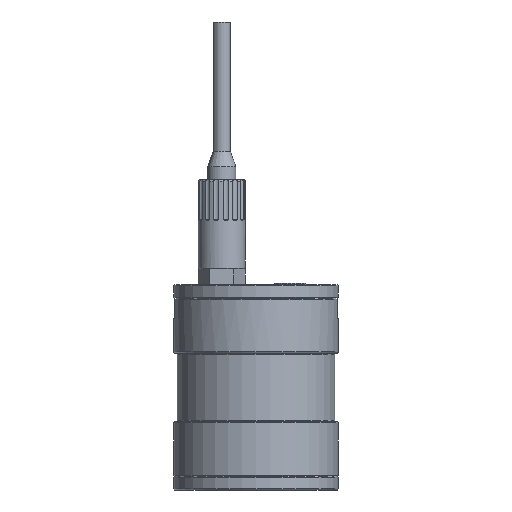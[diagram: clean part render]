
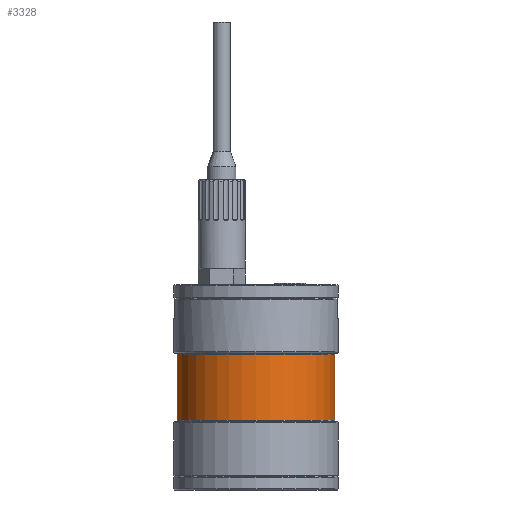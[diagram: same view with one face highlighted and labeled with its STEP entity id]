
A CAD part, front view. The second image highlights one B-rep face of the part: STEP entity #3328.
In plain terms, the highlighted cylindrical face has radius 36.513 mm (diameter 73.025 mm), a partial arc.
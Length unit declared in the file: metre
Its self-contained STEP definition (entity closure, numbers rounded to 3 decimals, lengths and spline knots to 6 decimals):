
#1034 = EDGE_LOOP ( 'NONE', ( #10132, #9157, #12105, #18317 ) ) ;
#1167 = VERTEX_POINT ( 'NONE', #9780 ) ;
#1994 = DIRECTION ( 'NONE',  ( 1., 0., 0. ) ) ;
#3328 = ADVANCED_FACE ( 'NONE', ( #11793 ), #17116, .T. ) ;
#3989 = DIRECTION ( 'NONE',  ( 0., 0., -1. ) ) ;
#4152 = CARTESIAN_POINT ( 'NONE',  ( -0.036513, 0., 0.062865 ) ) ;
#5798 = CARTESIAN_POINT ( 'NONE',  ( -0.036513, 0., 0.032385 ) ) ;
#6716 = CARTESIAN_POINT ( 'NONE',  ( 0., 0., 0. ) ) ;
#7435 = VECTOR ( 'NONE', #8868, 1. ) ;
#7659 = EDGE_CURVE ( 'NONE', #28382, #20461, #13151, .T. ) ;
#8064 = CARTESIAN_POINT ( 'NONE',  ( -0.036513, 0., 0. ) ) ;
#8868 = DIRECTION ( 'NONE',  ( 0., 0., -1. ) ) ;
#9157 = ORIENTED_EDGE ( 'NONE', *, *, #32348, .T. ) ;
#9486 = DIRECTION ( 'NONE',  ( 0., 0., -1. ) ) ;
#9780 = CARTESIAN_POINT ( 'NONE',  ( 0.036513, 0., 0.062865 ) ) ;
#10018 = CARTESIAN_POINT ( 'NONE',  ( 0.036513, 0., 0.032385 ) ) ;
#10132 = ORIENTED_EDGE ( 'NONE', *, *, #13960, .F. ) ;
#11707 = CARTESIAN_POINT ( 'NONE',  ( 0.036513, 0., 0. ) ) ;
#11793 = FACE_OUTER_BOUND ( 'NONE', #1034, .T. ) ;
#12105 = ORIENTED_EDGE ( 'NONE', *, *, #7659, .T. ) ;
#13151 = LINE ( 'NONE', #8064, #7435 ) ;
#13925 = AXIS2_PLACEMENT_3D ( 'NONE', #25231, #22847, #1994 ) ;
#13960 = EDGE_CURVE ( 'NONE', #1167, #25512, #30526, .T. ) ;
#17116 = CYLINDRICAL_SURFACE ( 'NONE', #24835, 0.036513 ) ;
#17425 = DIRECTION ( 'NONE',  ( -1., 0., 0. ) ) ;
#18317 = ORIENTED_EDGE ( 'NONE', *, *, #20596, .T. ) ;
#20221 = CIRCLE ( 'NONE', #30051, 0.036513 ) ;
#20461 = VERTEX_POINT ( 'NONE', #5798 ) ;
#20596 = EDGE_CURVE ( 'NONE', #20461, #25512, #21622, .T. ) ;
#21622 = CIRCLE ( 'NONE', #13925, 0.036513 ) ;
#22847 = DIRECTION ( 'NONE',  ( 0., 0., 1. ) ) ;
#22905 = CARTESIAN_POINT ( 'NONE',  ( 0., 0., 0.062865 ) ) ;
#24835 = AXIS2_PLACEMENT_3D ( 'NONE', #6716, #3989, #30619 ) ;
#25231 = CARTESIAN_POINT ( 'NONE',  ( 0., 0., 0.032385 ) ) ;
#25512 = VERTEX_POINT ( 'NONE', #10018 ) ;
#26771 = VECTOR ( 'NONE', #9486, 1. ) ;
#28178 = DIRECTION ( 'NONE',  ( 0., 0., -1. ) ) ;
#28382 = VERTEX_POINT ( 'NONE', #4152 ) ;
#30051 = AXIS2_PLACEMENT_3D ( 'NONE', #22905, #28178, #17425 ) ;
#30526 = LINE ( 'NONE', #11707, #26771 ) ;
#30619 = DIRECTION ( 'NONE',  ( -1., 0., 0. ) ) ;
#32348 = EDGE_CURVE ( 'NONE', #1167, #28382, #20221, .T. ) ;
